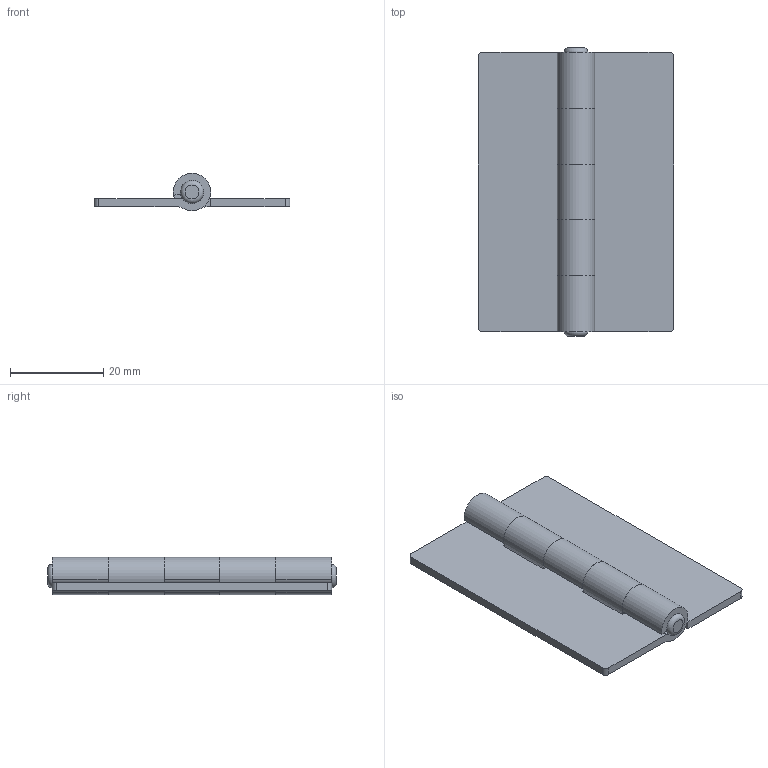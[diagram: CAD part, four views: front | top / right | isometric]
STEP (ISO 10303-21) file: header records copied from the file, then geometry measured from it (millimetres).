
FILE_DESCRIPTION(/* description */ (''),/* implementation_level */ '2;1');
FILE_NAME(/* name */ '\\NAS\db20\HHN6042-18\DR_HHN6042-18.stp',/* time_stamp */ '2018-08-11T15:41:58+09:00',/* author */ ('user'),/* organization */ (''),/* preprocessor_version */ 'ST-DEVELOPER v15.6',/* originating_system */ 'Autodesk Inventor 2015',/* authorisation */ '');
FILE_SCHEMA (('AUTOMOTIVE_DESIGN { 1 0 10303 214 3 1 1 }'));
Length unit declared in the file: millimetre
Products named in the file (3): DR_HHN6042-18-P1; DR_HHN6042-18-P2; DR_HHN6042-18
Bounding box: 42 x 62 x 8 mm (x, y, z)
Volume: 6704.1 mm3; surface area: 7299 mm2
Topology: 2 solids, 2 shells, 56 faces, 160 edges, 104 vertices
Faces by surface type: plane 32, cylinder 22, torus 2
Full cylindrical faces by diameter (mm): 4.4 x1
Entity records: 1885 total; most frequent: DIRECTION 332, CARTESIAN_POINT 317, ORIENTED_EDGE 308, EDGE_CURVE 154, AXIS2_PLACEMENT_3D 117, VERTEX_POINT 102, LINE 98, VECTOR 98
